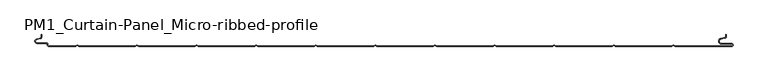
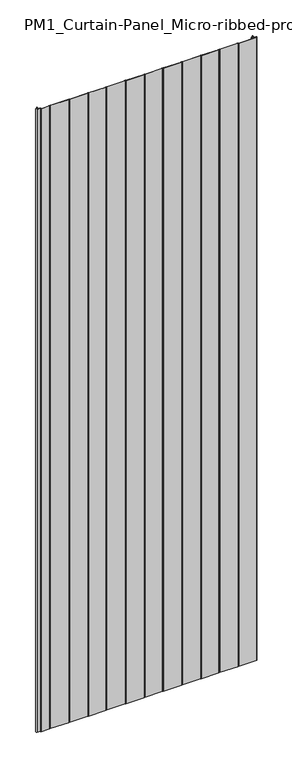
"""IFC4 building model written with IfcOpenShell, lengths in millimetres: plate geometry, PM1_Curtain-Panel_Micro-ribbed-profile : ACH_PM1_Acoustic-Sectioning-Panel_50M."""

from ifc_helpers import new_model, si_unit, frame, origin, place, context, project, spatial, polyline, circle_curve, source, transform, mapped, element, save
from ifc_brep_helpers import plane_surface, cylinder_surface, revolved_surface, advanced_brep


def pm1_curtain_panel_micro_ribbed_profile_3a178546(model_context):
    return source(origin(), model_context, "Body", "AdvancedBrep", [
        advanced_brep(
        [(-575.0, -34.121443, 3500.0), (-576.5500978, -36.0701831, 3500.0), (-582.7098239, -37.492268, 3500.0), (-581.9, -44.6, 3500.0), (-566.4, -44.6, 3500.0), (-564.4, -46.6, 3500.0), (-564.4, -48.0, 3500.0), (-562.4, -50.0, 3500.0), (-517.0999995, -50.0, 3500.0), (-514.4, -48.4411545, 3500.0), (-511.7000005, -50.0, 3500.0), (-417.0999995, -50.0, 3500.0), (-414.4, -48.4411545, 3500.0), (-411.7000005, -50.0, 3500.0), (-317.0999995, -50.0, 3500.0), (-314.4, -48.4411545, 3500.0), (-311.7000005, -50.0, 3500.0), (-217.0999995, -50.0, 3500.0), (-214.4, -48.4411545, 3500.0), (-211.7000005, -50.0, 3500.0), (-117.0999995, -50.0, 3500.0), (-114.4, -48.4411545, 3500.0), (-111.7000005, -50.0, 3500.0), (-17.0999995, -50.0, 3500.0), (-14.4, -48.4411545, 3500.0), (-11.7000005, -50.0, 3500.0), (82.9000005, -50.0, 3500.0), (85.6, -48.4411545, 3500.0), (88.2999995, -50.0, 3500.0), (182.9000005, -50.0, 3500.0), (185.6, -48.4411545, 3500.0), (188.2999995, -50.0, 3500.0), (282.9000005, -50.0, 3500.0), (285.6, -48.4411545, 3500.0), (288.2999995, -50.0, 3500.0), (382.9000005, -50.0, 3500.0), (385.6, -48.4411545, 3500.0), (388.2999995, -50.0, 3500.0), (482.9000005, -50.0, 3500.0), (485.6, -48.4411545, 3500.0), (488.2999995, -50.0, 3500.0), (583.1, -50.0, 3500.0), (585.6, -47.5, 3500.0), (583.1, -45.0, 3500.0), (566.1, -45.0, 3500.0), (565.405407, -37.060769, 3500.0), (571.8514855, -35.9241509, 3500.0), (574.0, -33.3636508, 3500.0), (574.0, -30.0, 3500.0), (573.2, -30.0, 3500.0), (573.2, -33.3636508, 3500.0), (571.7125669, -35.1363047, 3500.0), (565.2664884, -36.2729228, 3500.0), (566.1, -45.8, 3500.0), (583.1, -45.8, 3500.0), (583.1, -49.2, 3500.0), (488.5143588, -49.2, 3500.0), (485.6, -47.517394, 3500.0), (482.6856412, -49.2, 3500.0), (388.5143588, -49.2, 3500.0), (385.6, -47.517394, 3500.0), (382.6856412, -49.2, 3500.0), (288.5143588, -49.2, 3500.0), (285.6, -47.517394, 3500.0), (282.6856412, -49.2, 3500.0), (188.5143588, -49.2, 3500.0), (185.6, -47.517394, 3500.0), (182.6856412, -49.2, 3500.0), (88.5143588, -49.2, 3500.0), (85.6, -47.517394, 3500.0), (82.6856412, -49.2, 3500.0), (-11.4856412, -49.2, 3500.0), (-14.4, -47.517394, 3500.0), (-17.3143588, -49.2, 3500.0), (-111.4856412, -49.2, 3500.0), (-114.4, -47.517394, 3500.0), (-117.3143588, -49.2, 3500.0), (-211.4856412, -49.2, 3500.0), (-214.4, -47.517394, 3500.0), (-217.3143588, -49.2, 3500.0), (-311.4856412, -49.2, 3500.0), (-314.4, -47.517394, 3500.0), (-317.3143588, -49.2, 3500.0), (-411.4856412, -49.2, 3500.0), (-414.4, -47.517394, 3500.0), (-417.3143588, -49.2, 3500.0), (-511.4856412, -49.2, 3500.0), (-514.4, -47.517394, 3500.0), (-517.3143588, -49.2, 3500.0), (-562.4, -49.2, 3500.0), (-563.6, -48.0, 3500.0), (-563.6, -46.6, 3500.0), (-566.4, -43.8, 3500.0), (-581.9, -43.8, 3500.0), (-582.529863, -38.2717638, 3500.0), (-576.370137, -36.849679, 3500.0), (-574.2, -34.121443, 3500.0), (-574.2, -30.0, 3500.0), (-575.0, -30.0, 3500.0), (-575.0, -34.121443, 0.0), (-575.0, -30.0, 0.0), (-574.2, -30.0, 0.0), (-574.2, -34.121443, 0.0), (-576.370137, -36.8496792, 0.0), (-582.529863, -38.271764, 0.0), (-581.9, -43.8, 0.0), (-566.4, -43.8, 0.0), (-563.6, -46.6, 0.0), (-563.6, -48.0, 0.0), (-562.4, -49.2, 0.0), (-517.3143588, -49.2, 0.0), (-514.4, -47.517394, 0.0), (-511.4856412, -49.2, 0.0), (-417.3143588, -49.2, 0.0), (-414.4, -47.517394, 0.0), (-411.4856412, -49.2, 0.0), (-317.3143588, -49.2, 0.0), (-314.4, -47.517394, 0.0), (-311.4856412, -49.2, 0.0), (-217.3143588, -49.2, 0.0), (-214.4, -47.517394, 0.0), (-211.4856412, -49.2, 0.0), (-117.3143588, -49.2, 0.0), (-114.4, -47.517394, 0.0), (-111.4856412, -49.2, 0.0), (-17.3143588, -49.2, 0.0), (-14.4, -47.517394, 0.0), (-11.4856412, -49.2, 0.0), (82.6856412, -49.2, 0.0), (85.6, -47.517394, 0.0), (88.5143588, -49.2, 0.0), (182.6856412, -49.2, 0.0), (185.6, -47.517394, 0.0), (188.5143588, -49.2, 0.0), (282.6856412, -49.2, 0.0), (285.6, -47.517394, 0.0), (288.5143588, -49.2, 0.0), (382.6856412, -49.2, 0.0), (385.6, -47.517394, 0.0), (388.5143588, -49.2, 0.0), (482.6856412, -49.2, 0.0), (485.6, -47.517394, 0.0), (488.5143588, -49.2, 0.0), (583.1, -49.2, 0.0), (583.1, -45.8, 0.0), (566.1, -45.8, 0.0), (565.2664884, -36.2729229, 0.0), (571.7125669, -35.1363047, 0.0), (573.2, -33.3636508, 0.0), (573.2, -30.0, 0.0), (574.0, -30.0, 0.0), (574.0, -33.3636508, 0.0), (571.8514855, -35.9241509, 0.0), (565.405407, -37.060769, 0.0), (566.1, -45.0, 0.0), (583.1, -45.0, 0.0), (585.6, -47.5, 0.0), (583.1, -50.0, 0.0), (488.2999995, -50.0, 0.0), (485.6, -48.4411545, 0.0), (482.9000005, -50.0, 0.0), (388.2999995, -50.0, 0.0), (385.6, -48.4411545, 0.0), (382.9000005, -50.0, 0.0), (288.2999995, -50.0, 0.0), (285.6, -48.4411545, 0.0), (282.9000005, -50.0, 0.0), (188.2999995, -50.0, 0.0), (185.6, -48.4411545, 0.0), (182.9000005, -50.0, 0.0), (88.2999995, -50.0, 0.0), (85.6, -48.4411545, 0.0), (82.9000005, -50.0, 0.0), (-11.7000005, -50.0, 0.0), (-14.4, -48.4411545, 0.0), (-17.0999995, -50.0, 0.0), (-111.7000005, -50.0, 0.0), (-114.4, -48.4411545, 0.0), (-117.0999995, -50.0, 0.0), (-211.7000005, -50.0, 0.0), (-214.4, -48.4411545, 0.0), (-217.0999995, -50.0, 0.0), (-311.7000005, -50.0, 0.0), (-314.4, -48.4411545, 0.0), (-317.0999995, -50.0, 0.0), (-411.7000005, -50.0, 0.0), (-414.4, -48.4411545, 0.0), (-417.0999995, -50.0, 0.0), (-511.7000005, -50.0, 0.0), (-514.4, -48.4411545, 0.0), (-517.0999995, -50.0, 0.0), (-562.4, -50.0, 0.0), (-564.4, -48.0, 0.0), (-564.4, -46.6, 0.0), (-566.4, -44.6, 0.0), (-581.9, -44.6, 0.0), (-582.7098239, -37.4922678, 0.0), (-576.5500979, -36.070183, 0.0)],
        [
            (0, 1, circle_curve(frame((-577.0, -34.121443, 3500.0), z_axis=(0.0, 0.0, -1.0), x_axis=(1.0, 0.0, 0.0)), 2.0)),
            (1, 2),
            (2, 3, circle_curve(frame((-581.9, -41.0, 3500.0), z_axis=(0.0, 0.0, 1.0), x_axis=(1.0, 0.0, 0.0)), 3.6)),
            (3, 4),
            (4, 5, circle_curve(frame((-566.4, -46.6, 3500.0), z_axis=(0.0, 0.0, -1.0), x_axis=(1.0, 0.0, 0.0)), 2.0)),
            (5, 6),
            (6, 7, circle_curve(frame((-562.4, -48.0, 3500.0), z_axis=(0.0, 0.0, 1.0), x_axis=(1.0, 0.0, 0.0)), 2.0)),
            (7, 8),
            (8, 9),
            (9, 10),
            (10, 11),
            (11, 12),
            (12, 13),
            (13, 14),
            (14, 15),
            (15, 16),
            (16, 17),
            (17, 18),
            (18, 19),
            (19, 20),
            (20, 21),
            (21, 22),
            (22, 23),
            (23, 24),
            (24, 25),
            (25, 26),
            (26, 27),
            (27, 28),
            (28, 29),
            (29, 30),
            (30, 31),
            (31, 32),
            (32, 33),
            (33, 34),
            (34, 35),
            (35, 36),
            (36, 37),
            (37, 38),
            (38, 39),
            (39, 40),
            (40, 41),
            (41, 42, circle_curve(frame((583.1, -47.5, 3500.0), z_axis=(0.0, 0.0, 1.0), x_axis=(1.0, 0.0, 0.0)), 2.5)),
            (42, 43, circle_curve(frame((583.1, -47.5, 3500.0), z_axis=(0.0, 0.0, 1.0), x_axis=(1.0, 0.0, 0.0)), 2.5)),
            (43, 44),
            (44, 45, circle_curve(frame((566.1, -41.0, 3500.0), z_axis=(0.0, 0.0, -1.0), x_axis=(1.0, 0.0, 0.0)), 4.0)),
            (45, 46),
            (46, 47, circle_curve(frame((571.4, -33.3636508, 3500.0), z_axis=(0.0, 0.0, 1.0), x_axis=(1.0, 0.0, 0.0)), 2.6)),
            (47, 48),
            (48, 49),
            (49, 50),
            (50, 51, circle_curve(frame((571.4, -33.3636508, 3500.0), z_axis=(0.0, 0.0, -1.0), x_axis=(1.0, 0.0, 0.0)), 1.8)),
            (51, 52),
            (52, 53, circle_curve(frame((566.1, -41.0, 3500.0), z_axis=(0.0, 0.0, 1.0), x_axis=(1.0, 0.0, 0.0)), 4.8)),
            (53, 54),
            (54, 55, circle_curve(frame((583.1, -47.5, 3500.0), z_axis=(0.0, 0.0, -1.0), x_axis=(1.0, 0.0, 0.0)), 1.7)),
            (55, 56),
            (56, 57),
            (57, 58),
            (58, 59),
            (59, 60),
            (60, 61),
            (61, 62),
            (62, 63),
            (63, 64),
            (64, 65),
            (65, 66),
            (66, 67),
            (67, 68),
            (68, 69),
            (69, 70),
            (70, 71),
            (71, 72),
            (72, 73),
            (73, 74),
            (74, 75),
            (75, 76),
            (76, 77),
            (77, 78),
            (78, 79),
            (79, 80),
            (80, 81),
            (81, 82),
            (82, 83),
            (83, 84),
            (84, 85),
            (85, 86),
            (86, 87),
            (87, 88),
            (88, 89),
            (89, 90, circle_curve(frame((-562.4, -48.0, 3500.0), z_axis=(0.0, 0.0, -1.0), x_axis=(1.0, 0.0, 0.0)), 1.2)),
            (90, 91),
            (91, 92, circle_curve(frame((-566.4, -46.6, 3500.0), z_axis=(0.0, 0.0, 1.0), x_axis=(1.0, 0.0, 0.0)), 2.8)),
            (92, 93),
            (93, 94, circle_curve(frame((-581.9, -41.0, 3500.0), z_axis=(0.0, 0.0, -1.0), x_axis=(1.0, 0.0, 0.0)), 2.8)),
            (94, 95),
            (95, 96, circle_curve(frame((-577.0, -34.121443, 3500.0), z_axis=(0.0, 0.0, 1.0), x_axis=(1.0, 0.0, 0.0)), 2.8)),
            (96, 97),
            (97, 98),
            (98, 0),
            (99, 100),
            (100, 101),
            (101, 102),
            (102, 103, circle_curve(frame((-577.0, -34.121443, 0.0), z_axis=(0.0, 0.0, -1.0), x_axis=(1.0, 0.0, 0.0)), 2.8)),
            (103, 104),
            (104, 105, circle_curve(frame((-581.9, -41.0, 0.0), z_axis=(0.0, 0.0, 1.0), x_axis=(1.0, 0.0, 0.0)), 2.8)),
            (105, 106),
            (106, 107, circle_curve(frame((-566.4, -46.6, 0.0), z_axis=(0.0, 0.0, -1.0), x_axis=(1.0, 0.0, 0.0)), 2.8)),
            (107, 108),
            (108, 109, circle_curve(frame((-562.4, -48.0, 0.0), z_axis=(0.0, 0.0, 1.0), x_axis=(1.0, 0.0, 0.0)), 1.2)),
            (109, 110),
            (110, 111),
            (111, 112),
            (112, 113),
            (113, 114),
            (114, 115),
            (115, 116),
            (116, 117),
            (117, 118),
            (118, 119),
            (119, 120),
            (120, 121),
            (121, 122),
            (122, 123),
            (123, 124),
            (124, 125),
            (125, 126),
            (126, 127),
            (127, 128),
            (128, 129),
            (129, 130),
            (130, 131),
            (131, 132),
            (132, 133),
            (133, 134),
            (134, 135),
            (135, 136),
            (136, 137),
            (137, 138),
            (138, 139),
            (139, 140),
            (140, 141),
            (141, 142),
            (142, 143),
            (143, 144, circle_curve(frame((583.1, -47.5, 0.0), z_axis=(0.0, 0.0, 1.0), x_axis=(1.0, 0.0, 0.0)), 1.7)),
            (144, 145),
            (145, 146, circle_curve(frame((566.1, -41.0, 0.0), z_axis=(0.0, 0.0, -1.0), x_axis=(1.0, 0.0, 0.0)), 4.8)),
            (146, 147),
            (147, 148, circle_curve(frame((571.4, -33.3636508, 0.0), z_axis=(0.0, 0.0, 1.0), x_axis=(1.0, 0.0, 0.0)), 1.8)),
            (148, 149),
            (149, 150),
            (150, 151),
            (151, 152, circle_curve(frame((571.4, -33.3636508, 0.0), z_axis=(0.0, 0.0, -1.0), x_axis=(1.0, 0.0, 0.0)), 2.6)),
            (152, 153),
            (153, 154, circle_curve(frame((566.1, -41.0, 0.0), z_axis=(0.0, 0.0, 1.0), x_axis=(1.0, 0.0, 0.0)), 4.0)),
            (154, 155),
            (155, 156, circle_curve(frame((583.1, -47.5, 0.0), z_axis=(0.0, 0.0, -1.0), x_axis=(1.0, 0.0, 0.0)), 2.5)),
            (156, 157, circle_curve(frame((583.1, -47.5, 0.0), z_axis=(0.0, 0.0, -1.0), x_axis=(1.0, 0.0, 0.0)), 2.5)),
            (157, 158),
            (158, 159),
            (159, 160),
            (160, 161),
            (161, 162),
            (162, 163),
            (163, 164),
            (164, 165),
            (165, 166),
            (166, 167),
            (167, 168),
            (168, 169),
            (169, 170),
            (170, 171),
            (171, 172),
            (172, 173),
            (173, 174),
            (174, 175),
            (175, 176),
            (176, 177),
            (177, 178),
            (178, 179),
            (179, 180),
            (180, 181),
            (181, 182),
            (182, 183),
            (183, 184),
            (184, 185),
            (185, 186),
            (186, 187),
            (187, 188),
            (188, 189),
            (189, 190),
            (190, 191),
            (191, 192, circle_curve(frame((-562.4, -48.0, 0.0), z_axis=(0.0, 0.0, -1.0), x_axis=(1.0, 0.0, 0.0)), 2.0)),
            (192, 193),
            (193, 194, circle_curve(frame((-566.4, -46.6, 0.0), z_axis=(0.0, 0.0, 1.0), x_axis=(1.0, 0.0, 0.0)), 2.0)),
            (194, 195),
            (195, 196, circle_curve(frame((-581.9, -41.0, 0.0), z_axis=(0.0, 0.0, -1.0), x_axis=(1.0, 0.0, 0.0)), 3.6)),
            (196, 197),
            (197, 99, circle_curve(frame((-577.0, -34.121443, 0.0), z_axis=(0.0, 0.0, 1.0), x_axis=(1.0, 0.0, 0.0)), 2.0)),
            (0, 99),
            (197, 1),
            (196, 2),
            (195, 3),
            (194, 4),
            (193, 5),
            (192, 6),
            (191, 7),
            (190, 8),
            (189, 9),
            (188, 10),
            (187, 11),
            (186, 12),
            (185, 13),
            (184, 14),
            (183, 15),
            (182, 16),
            (181, 17),
            (180, 18),
            (179, 19),
            (178, 20),
            (177, 21),
            (176, 22),
            (175, 23),
            (174, 24),
            (173, 25),
            (172, 26),
            (171, 27),
            (170, 28),
            (169, 29),
            (168, 30),
            (167, 31),
            (166, 32),
            (165, 33),
            (164, 34),
            (163, 35),
            (162, 36),
            (161, 37),
            (160, 38),
            (159, 39),
            (158, 40),
            (157, 41),
            (155, 43),
            (154, 44),
            (153, 45),
            (152, 46),
            (151, 47),
            (150, 48),
            (149, 49),
            (148, 50),
            (147, 51),
            (146, 52),
            (145, 53),
            (144, 54),
            (143, 55),
            (142, 56),
            (141, 57),
            (140, 58),
            (139, 59),
            (138, 60),
            (137, 61),
            (136, 62),
            (135, 63),
            (134, 64),
            (133, 65),
            (132, 66),
            (131, 67),
            (130, 68),
            (129, 69),
            (128, 70),
            (127, 71),
            (126, 72),
            (125, 73),
            (124, 74),
            (123, 75),
            (122, 76),
            (121, 77),
            (120, 78),
            (119, 79),
            (118, 80),
            (117, 81),
            (116, 82),
            (115, 83),
            (114, 84),
            (113, 85),
            (112, 86),
            (111, 87),
            (110, 88),
            (109, 89),
            (108, 90),
            (107, 91),
            (106, 92),
            (105, 93),
            (104, 94),
            (103, 95),
            (102, 96),
            (101, 97),
            (100, 98),
        ],
        [
            plane_surface(frame((-575.0, -50.0, 3500.0), z_axis=(0.0, 0.0, 1.0), x_axis=(0.0, 1.0, 0.0))),
            plane_surface(frame((-575.0, -50.0, 0.0), z_axis=(0.0, 0.0, -1.0), x_axis=(0.0, 1.0, 0.0))),
            revolved_surface(polyline([(-575.0, -34.121443, 0.0), (-575.0, -34.121443, 3500.0)]), (-577.0, -34.121443, 3500.0), (0.0, 0.0, -1.0)),
            plane_surface(frame((-576.5500979, -36.070183, 3500.0), z_axis=(-0.22495108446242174, 0.9743700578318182, 0.0), x_axis=(0.0, 0.0, -1.0))),
            cylinder_surface(frame((-581.9, -41.0, 3500.0), z_axis=(0.0, 0.0, 1.0), x_axis=(1.0, 0.0, 0.0)), 3.6),
            plane_surface(frame((-581.9, -44.6, 3500.0), z_axis=(0.0, -1.0, 0.0), x_axis=(0.0, 0.0, -1.0))),
            revolved_surface(polyline([(-564.4, -46.6, 0.0), (-564.4, -46.6, 3500.0)]), (-566.4, -46.6, 3500.0), (0.0, 0.0, -1.0)),
            plane_surface(frame((-564.4, -46.6, 3500.0), z_axis=(-1.0, 0.0, 0.0), x_axis=(0.0, 0.0, -1.0))),
            cylinder_surface(frame((-562.4, -48.0, 3500.0), z_axis=(0.0, 0.0, 1.0), x_axis=(1.0, 0.0, 0.0)), 2.0),
            plane_surface(frame((-562.4, -50.0, 3500.0), z_axis=(0.0, -1.0, 0.0), x_axis=(0.0, 0.0, -1.0))),
            plane_surface(frame((-517.0999995, -50.0, 3500.0), z_axis=(0.5000000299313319, -0.8660253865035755, 0.0), x_axis=(0.0, 0.0, -1.0))),
            plane_surface(frame((-514.4, -48.4411545, 3500.0), z_axis=(-0.5000000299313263, -0.8660253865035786, 0.0), x_axis=(0.0, 0.0, -1.0))),
            plane_surface(frame((-511.7000005, -50.0, 3500.0), z_axis=(0.0, -1.0, 0.0), x_axis=(0.0, 0.0, -1.0))),
            plane_surface(frame((-417.0999995, -50.0, 3500.0), z_axis=(0.5000000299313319, -0.8660253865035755, 0.0), x_axis=(0.0, 0.0, -1.0))),
            plane_surface(frame((-414.4, -48.4411545, 3500.0), z_axis=(-0.5000000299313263, -0.8660253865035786, 0.0), x_axis=(0.0, 0.0, -1.0))),
            plane_surface(frame((-411.7000005, -50.0, 3500.0), z_axis=(0.0, -1.0, 0.0), x_axis=(0.0, 0.0, -1.0))),
            plane_surface(frame((-317.0999995, -50.0, 3500.0), z_axis=(0.5000000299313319, -0.8660253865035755, 0.0), x_axis=(0.0, 0.0, -1.0))),
            plane_surface(frame((-314.4, -48.4411545, 3500.0), z_axis=(-0.5000000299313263, -0.8660253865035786, 0.0), x_axis=(0.0, 0.0, -1.0))),
            plane_surface(frame((-311.7000005, -50.0, 3500.0), z_axis=(0.0, -1.0, 0.0), x_axis=(0.0, 0.0, -1.0))),
            plane_surface(frame((-217.0999995, -50.0, 3500.0), z_axis=(0.5000000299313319, -0.8660253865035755, 0.0), x_axis=(0.0, 0.0, -1.0))),
            plane_surface(frame((-214.4, -48.4411545, 3500.0), z_axis=(-0.5000000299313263, -0.8660253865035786, 0.0), x_axis=(0.0, 0.0, -1.0))),
            plane_surface(frame((-211.7000005, -50.0, 3500.0), z_axis=(0.0, -1.0, 0.0), x_axis=(0.0, 0.0, -1.0))),
            plane_surface(frame((-117.0999995, -50.0, 3500.0), z_axis=(0.5000000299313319, -0.8660253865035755, 0.0), x_axis=(0.0, 0.0, -1.0))),
            plane_surface(frame((-114.4, -48.4411545, 3500.0), z_axis=(-0.5000000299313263, -0.8660253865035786, 0.0), x_axis=(0.0, 0.0, -1.0))),
            plane_surface(frame((-111.7000005, -50.0, 3500.0), z_axis=(0.0, -1.0, 0.0), x_axis=(0.0, 0.0, -1.0))),
            plane_surface(frame((-17.0999995, -50.0, 3500.0), z_axis=(0.5000000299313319, -0.8660253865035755, 0.0), x_axis=(0.0, 0.0, -1.0))),
            plane_surface(frame((-14.4, -48.4411545, 3500.0), z_axis=(-0.5000000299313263, -0.8660253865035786, 0.0), x_axis=(0.0, 0.0, -1.0))),
            plane_surface(frame((-11.7000005, -50.0, 3500.0), z_axis=(0.0, -1.0, 0.0), x_axis=(0.0, 0.0, -1.0))),
            plane_surface(frame((82.9000005, -50.0, 3500.0), z_axis=(0.5000000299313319, -0.8660253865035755, 0.0), x_axis=(0.0, 0.0, -1.0))),
            plane_surface(frame((85.6, -48.4411545, 3500.0), z_axis=(-0.5000000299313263, -0.8660253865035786, 0.0), x_axis=(0.0, 0.0, -1.0))),
            plane_surface(frame((88.2999995, -50.0, 3500.0), z_axis=(0.0, -1.0, 0.0), x_axis=(0.0, 0.0, -1.0))),
            plane_surface(frame((182.9000005, -50.0, 3500.0), z_axis=(0.5000000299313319, -0.8660253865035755, 0.0), x_axis=(0.0, 0.0, -1.0))),
            plane_surface(frame((185.6, -48.4411545, 3500.0), z_axis=(-0.5000000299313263, -0.8660253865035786, 0.0), x_axis=(0.0, 0.0, -1.0))),
            plane_surface(frame((188.2999995, -50.0, 3500.0), z_axis=(0.0, -1.0, 0.0), x_axis=(0.0, 0.0, -1.0))),
            plane_surface(frame((282.9000005, -50.0, 3500.0), z_axis=(0.5000000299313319, -0.8660253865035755, 0.0), x_axis=(0.0, 0.0, -1.0))),
            plane_surface(frame((285.6, -48.4411545, 3500.0), z_axis=(-0.5000000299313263, -0.8660253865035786, 0.0), x_axis=(0.0, 0.0, -1.0))),
            plane_surface(frame((288.2999995, -50.0, 3500.0), z_axis=(0.0, -1.0, 0.0), x_axis=(0.0, 0.0, -1.0))),
            plane_surface(frame((382.9000005, -50.0, 3500.0), z_axis=(0.5000000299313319, -0.8660253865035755, 0.0), x_axis=(0.0, 0.0, -1.0))),
            plane_surface(frame((385.6, -48.4411545, 3500.0), z_axis=(-0.5000000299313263, -0.8660253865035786, 0.0), x_axis=(0.0, 0.0, -1.0))),
            plane_surface(frame((388.2999995, -50.0, 3500.0), z_axis=(0.0, -1.0, 0.0), x_axis=(0.0, 0.0, -1.0))),
            plane_surface(frame((482.9000005, -50.0, 3500.0), z_axis=(0.5000000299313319, -0.8660253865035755, 0.0), x_axis=(0.0, 0.0, -1.0))),
            plane_surface(frame((485.6, -48.4411545, 3500.0), z_axis=(-0.5000000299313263, -0.8660253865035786, 0.0), x_axis=(0.0, 0.0, -1.0))),
            plane_surface(frame((535.6, -50.0, 3500.0), z_axis=(0.0, -1.0, 0.0), x_axis=(0.0, 0.0, -1.0))),
            cylinder_surface(frame((583.1, -47.5, 3500.0), z_axis=(0.0, 0.0, 1.0), x_axis=(1.0, 0.0, 0.0)), 2.5),
            plane_surface(frame((583.1, -45.0, 3500.0), z_axis=(0.0, 1.0, 0.0), x_axis=(0.0, 0.0, -1.0))),
            revolved_surface(polyline([(570.1, -41.0, 0.0), (570.1, -41.0, 3500.0)]), (566.1, -41.0, 3500.0), (0.0, 0.0, -1.0)),
            plane_surface(frame((565.405407, -37.060769, 3500.0), z_axis=(0.17364825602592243, -0.9848077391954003, 0.0), x_axis=(0.0, 0.0, -1.0))),
            cylinder_surface(frame((571.4, -33.3636508, 3500.0), z_axis=(0.0, 0.0, 1.0), x_axis=(1.0, 0.0, 0.0)), 2.6),
            plane_surface(frame((574.0, -33.3636508, 3500.0), z_axis=(1.0, 0.0, 0.0), x_axis=(0.0, 0.0, -1.0))),
            plane_surface(frame((574.0, -30.0, 3500.0), z_axis=(0.0, 1.0, 0.0), x_axis=(0.0, 0.0, -1.0))),
            plane_surface(frame((573.2, -30.0, 3500.0), z_axis=(-1.0, 0.0, 0.0), x_axis=(0.0, 0.0, -1.0))),
            revolved_surface(polyline([(573.1999999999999, -33.3636508, 0.0), (573.1999999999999, -33.3636508, 3500.0)]), (571.4, -33.3636508, 3500.0), (0.0, 0.0, -1.0)),
            plane_surface(frame((571.7125669, -35.1363047, 3500.0), z_axis=(-0.17364825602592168, 0.9848077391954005, 0.0), x_axis=(0.0, 0.0, -1.0))),
            cylinder_surface(frame((566.1, -41.0, 3500.0), z_axis=(0.0, 0.0, 1.0), x_axis=(1.0, 0.0, 0.0)), 4.8),
            plane_surface(frame((566.1, -45.8, 3500.0), z_axis=(0.0, -1.0, 0.0), x_axis=(0.0, 0.0, -1.0))),
            revolved_surface(polyline([(584.8000000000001, -47.5, 0.0), (584.8000000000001, -47.5, 3500.0)]), (583.1, -47.5, 3500.0), (0.0, 0.0, -1.0)),
            plane_surface(frame((535.6, -49.2, 3500.0), z_axis=(0.0, 1.0, 0.0), x_axis=(0.0, 0.0, -1.0))),
            plane_surface(frame((488.5143588, -49.2, 3500.0), z_axis=(0.5000000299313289, 0.8660253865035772, 0.0), x_axis=(0.0, 0.0, -1.0))),
            plane_surface(frame((485.6, -47.517394, 3500.0), z_axis=(-0.5000000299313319, 0.8660253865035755, 0.0), x_axis=(0.0, 0.0, -1.0))),
            plane_surface(frame((482.6856412, -49.2, 3500.0), z_axis=(0.0, 1.0, 0.0), x_axis=(0.0, 0.0, -1.0))),
            plane_surface(frame((388.5143588, -49.2, 3500.0), z_axis=(0.5000000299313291, 0.8660253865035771, 0.0), x_axis=(0.0, 0.0, -1.0))),
            plane_surface(frame((385.6, -47.517394, 3500.0), z_axis=(-0.500000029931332, 0.8660253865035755, 0.0), x_axis=(0.0, 0.0, -1.0))),
            plane_surface(frame((382.6856412, -49.2, 3500.0), z_axis=(0.0, 1.0, 0.0), x_axis=(0.0, 0.0, -1.0))),
            plane_surface(frame((288.5143588, -49.2, 3500.0), z_axis=(0.5000000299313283, 0.8660253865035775, 0.0), x_axis=(0.0, 0.0, -1.0))),
            plane_surface(frame((285.6, -47.517394, 3500.0), z_axis=(-0.5000000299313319, 0.8660253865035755, 0.0), x_axis=(0.0, 0.0, -1.0))),
            plane_surface(frame((282.6856412, -49.2, 3500.0), z_axis=(0.0, 1.0, 0.0), x_axis=(0.0, 0.0, -1.0))),
            plane_surface(frame((188.5143588, -49.2, 3500.0), z_axis=(0.5000000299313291, 0.8660253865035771, 0.0), x_axis=(0.0, 0.0, -1.0))),
            plane_surface(frame((185.6, -47.517394, 3500.0), z_axis=(-0.5000000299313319, 0.8660253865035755, 0.0), x_axis=(0.0, 0.0, -1.0))),
            plane_surface(frame((182.6856412, -49.2, 3500.0), z_axis=(0.0, 1.0, 0.0), x_axis=(0.0, 0.0, -1.0))),
            plane_surface(frame((88.5143588, -49.2, 3500.0), z_axis=(0.5000000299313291, 0.8660253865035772, 0.0), x_axis=(0.0, 0.0, -1.0))),
            plane_surface(frame((85.6, -47.517394, 3500.0), z_axis=(-0.5000000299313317, 0.8660253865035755, 0.0), x_axis=(0.0, 0.0, -1.0))),
            plane_surface(frame((82.6856412, -49.2, 3500.0), z_axis=(0.0, 1.0, 0.0), x_axis=(0.0, 0.0, -1.0))),
            plane_surface(frame((-11.4856412, -49.2, 3500.0), z_axis=(0.500000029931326, 0.8660253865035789, 0.0), x_axis=(0.0, 0.0, -1.0))),
            plane_surface(frame((-14.4, -47.517394, 3500.0), z_axis=(-0.500000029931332, 0.8660253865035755, 0.0), x_axis=(0.0, 0.0, -1.0))),
            plane_surface(frame((-17.3143588, -49.2, 3500.0), z_axis=(0.0, 1.0, 0.0), x_axis=(0.0, 0.0, -1.0))),
            plane_surface(frame((-111.4856412, -49.2, 3500.0), z_axis=(0.5000000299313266, 0.8660253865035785, 0.0), x_axis=(0.0, 0.0, -1.0))),
            plane_surface(frame((-114.4, -47.517394, 3500.0), z_axis=(-0.5000000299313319, 0.8660253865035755, 0.0), x_axis=(0.0, 0.0, -1.0))),
            plane_surface(frame((-117.3143588, -49.2, 3500.0), z_axis=(0.0, 1.0, 0.0), x_axis=(0.0, 0.0, -1.0))),
            plane_surface(frame((-211.4856412, -49.2, 3500.0), z_axis=(0.5000000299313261, 0.8660253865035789, 0.0), x_axis=(0.0, 0.0, -1.0))),
            plane_surface(frame((-214.4, -47.517394, 3500.0), z_axis=(-0.500000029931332, 0.8660253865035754, 0.0), x_axis=(0.0, 0.0, -1.0))),
            plane_surface(frame((-217.3143588, -49.2, 3500.0), z_axis=(0.0, 1.0, 0.0), x_axis=(0.0, 0.0, -1.0))),
            plane_surface(frame((-311.4856412, -49.2, 3500.0), z_axis=(0.5000000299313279, 0.8660253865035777, 0.0), x_axis=(0.0, 0.0, -1.0))),
            plane_surface(frame((-314.4, -47.517394, 3500.0), z_axis=(-0.5000000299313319, 0.8660253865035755, 0.0), x_axis=(0.0, 0.0, -1.0))),
            plane_surface(frame((-317.3143588, -49.2, 3500.0), z_axis=(0.0, 1.0, 0.0), x_axis=(0.0, 0.0, -1.0))),
            plane_surface(frame((-411.4856412, -49.2, 3500.0), z_axis=(0.5000000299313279, 0.8660253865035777, 0.0), x_axis=(0.0, 0.0, -1.0))),
            plane_surface(frame((-414.4, -47.517394, 3500.0), z_axis=(-0.5000000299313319, 0.8660253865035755, 0.0), x_axis=(0.0, 0.0, -1.0))),
            plane_surface(frame((-417.3143588, -49.2, 3500.0), z_axis=(0.0, 1.0, 0.0), x_axis=(0.0, 0.0, -1.0))),
            plane_surface(frame((-511.4856412, -49.2, 3500.0), z_axis=(0.5000000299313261, 0.8660253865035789, 0.0), x_axis=(0.0, 0.0, -1.0))),
            plane_surface(frame((-514.4, -47.517394, 3500.0), z_axis=(-0.5000000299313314, 0.8660253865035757, 0.0), x_axis=(0.0, 0.0, -1.0))),
            plane_surface(frame((-517.3143588, -49.2, 3500.0), z_axis=(0.0, 1.0, 0.0), x_axis=(0.0, 0.0, -1.0))),
            revolved_surface(polyline([(-561.1999999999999, -48.0, 0.0), (-561.1999999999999, -48.0, 3500.0)]), (-562.4, -48.0, 3500.0), (0.0, 0.0, -1.0)),
            plane_surface(frame((-563.6, -48.0, 3500.0), z_axis=(1.0, 0.0, 0.0), x_axis=(0.0, 0.0, -1.0))),
            cylinder_surface(frame((-566.4, -46.6, 3500.0), z_axis=(0.0, 0.0, 1.0), x_axis=(1.0, 0.0, 0.0)), 2.8),
            plane_surface(frame((-566.4, -43.8, 3500.0), z_axis=(0.0, 1.0, 0.0), x_axis=(0.0, 0.0, -1.0))),
            revolved_surface(polyline([(-579.1, -41.0, 0.0), (-579.1, -41.0, 3500.0)]), (-581.9, -41.0, 3500.0), (0.0, 0.0, -1.0)),
            plane_surface(frame((-582.529863, -38.271764, 3500.0), z_axis=(0.22495108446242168, -0.9743700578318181, 0.0), x_axis=(0.0, 0.0, -1.0))),
            cylinder_surface(frame((-577.0, -34.121443, 3500.0), z_axis=(0.0, 0.0, 1.0), x_axis=(1.0, 0.0, 0.0)), 2.8),
            plane_surface(frame((-574.2, -34.121443, 3500.0), z_axis=(1.0, 0.0, 0.0), x_axis=(0.0, 0.0, -1.0))),
            plane_surface(frame((-574.2, -30.0, 3500.0), z_axis=(0.0, 1.0, 0.0), x_axis=(0.0, 0.0, -1.0))),
            plane_surface(frame((-575.0, -30.0, 3500.0), z_axis=(-1.0, 0.0, 0.0), x_axis=(0.0, 0.0, -1.0))),
        ],
        [
            (0, [[1, 2, 3, 4, 5, 6, 7, 8, 9, 10, 11, 12, 13, 14, 15, 16, 17, 18, 19, 20, 21, 22, 23, 24, 25, 26, 27, 28, 29, 30, 31, 32, 33, 34, 35, 36, 37, 38, 39, 40, 41, 42, 43, 44, 45, 46, 47, 48, 49, 50, 51, 52, 53, 54, 55, 56, 57, 58, 59, 60, 61, 62, 63, 64, 65, 66, 67, 68, 69, 70, 71, 72, 73, 74, 75, 76, 77, 78, 79, 80, 81, 82, 83, 84, 85, 86, 87, 88, 89, 90, 91, 92, 93, 94, 95, 96, 97, 98, 99]]),
            (1, [[100, 101, 102, 103, 104, 105, 106, 107, 108, 109, 110, 111, 112, 113, 114, 115, 116, 117, 118, 119, 120, 121, 122, 123, 124, 125, 126, 127, 128, 129, 130, 131, 132, 133, 134, 135, 136, 137, 138, 139, 140, 141, 142, 143, 144, 145, 146, 147, 148, 149, 150, 151, 152, 153, 154, 155, 156, 157, 158, 159, 160, 161, 162, 163, 164, 165, 166, 167, 168, 169, 170, 171, 172, 173, 174, 175, 176, 177, 178, 179, 180, 181, 182, 183, 184, 185, 186, 187, 188, 189, 190, 191, 192, 193, 194, 195, 196, 197, 198]]),
            (2, [[-1, 199, -198, 200]]),
            (3, [[-2, -200, -197, 201]]),
            (4, [[-3, -201, -196, 202]]),
            (5, [[-4, -202, -195, 203]]),
            (6, [[-5, -203, -194, 204]]),
            (7, [[-6, -204, -193, 205]]),
            (8, [[-7, -205, -192, 206]]),
            (9, [[-8, -206, -191, 207]]),
            (10, [[-9, -207, -190, 208]]),
            (11, [[-10, -208, -189, 209]]),
            (12, [[-11, -209, -188, 210]]),
            (13, [[-12, -210, -187, 211]]),
            (14, [[-13, -211, -186, 212]]),
            (15, [[-14, -212, -185, 213]]),
            (16, [[-15, -213, -184, 214]]),
            (17, [[-16, -214, -183, 215]]),
            (18, [[-17, -215, -182, 216]]),
            (19, [[-18, -216, -181, 217]]),
            (20, [[-19, -217, -180, 218]]),
            (21, [[-20, -218, -179, 219]]),
            (22, [[-21, -219, -178, 220]]),
            (23, [[-22, -220, -177, 221]]),
            (24, [[-23, -221, -176, 222]]),
            (25, [[-24, -222, -175, 223]]),
            (26, [[-25, -223, -174, 224]]),
            (27, [[-26, -224, -173, 225]]),
            (28, [[-27, -225, -172, 226]]),
            (29, [[-28, -226, -171, 227]]),
            (30, [[-29, -227, -170, 228]]),
            (31, [[-30, -228, -169, 229]]),
            (32, [[-31, -229, -168, 230]]),
            (33, [[-32, -230, -167, 231]]),
            (34, [[-33, -231, -166, 232]]),
            (35, [[-34, -232, -165, 233]]),
            (36, [[-35, -233, -164, 234]]),
            (37, [[-36, -234, -163, 235]]),
            (38, [[-37, -235, -162, 236]]),
            (39, [[-38, -236, -161, 237]]),
            (40, [[-39, -237, -160, 238]]),
            (41, [[-40, -238, -159, 239]]),
            (42, [[-41, -239, -158, 240]]),
            (43, [[-240, -157, -156, 241, -43, -42]]),
            (44, [[-44, -241, -155, 242]]),
            (45, [[-45, -242, -154, 243]]),
            (46, [[-46, -243, -153, 244]]),
            (47, [[-47, -244, -152, 245]]),
            (48, [[-48, -245, -151, 246]]),
            (49, [[-49, -246, -150, 247]]),
            (50, [[-50, -247, -149, 248]]),
            (51, [[-51, -248, -148, 249]]),
            (52, [[-52, -249, -147, 250]]),
            (53, [[-53, -250, -146, 251]]),
            (54, [[-54, -251, -145, 252]]),
            (55, [[-55, -252, -144, 253]]),
            (56, [[-56, -253, -143, 254]]),
            (57, [[-57, -254, -142, 255]]),
            (58, [[-58, -255, -141, 256]]),
            (59, [[-59, -256, -140, 257]]),
            (60, [[-60, -257, -139, 258]]),
            (61, [[-61, -258, -138, 259]]),
            (62, [[-62, -259, -137, 260]]),
            (63, [[-63, -260, -136, 261]]),
            (64, [[-64, -261, -135, 262]]),
            (65, [[-65, -262, -134, 263]]),
            (66, [[-66, -263, -133, 264]]),
            (67, [[-67, -264, -132, 265]]),
            (68, [[-68, -265, -131, 266]]),
            (69, [[-69, -266, -130, 267]]),
            (70, [[-70, -267, -129, 268]]),
            (71, [[-71, -268, -128, 269]]),
            (72, [[-72, -269, -127, 270]]),
            (73, [[-73, -270, -126, 271]]),
            (74, [[-74, -271, -125, 272]]),
            (75, [[-75, -272, -124, 273]]),
            (76, [[-76, -273, -123, 274]]),
            (77, [[-77, -274, -122, 275]]),
            (78, [[-78, -275, -121, 276]]),
            (79, [[-79, -276, -120, 277]]),
            (80, [[-80, -277, -119, 278]]),
            (81, [[-81, -278, -118, 279]]),
            (82, [[-82, -279, -117, 280]]),
            (83, [[-83, -280, -116, 281]]),
            (84, [[-84, -281, -115, 282]]),
            (85, [[-85, -282, -114, 283]]),
            (86, [[-86, -283, -113, 284]]),
            (87, [[-87, -284, -112, 285]]),
            (88, [[-88, -285, -111, 286]]),
            (89, [[-89, -286, -110, 287]]),
            (90, [[-90, -287, -109, 288]]),
            (91, [[-91, -288, -108, 289]]),
            (92, [[-92, -289, -107, 290]]),
            (93, [[-93, -290, -106, 291]]),
            (94, [[-94, -291, -105, 292]]),
            (95, [[-95, -292, -104, 293]]),
            (96, [[-96, -293, -103, 294]]),
            (97, [[-97, -294, -102, 295]]),
            (98, [[-98, -295, -101, 296]]),
            (99, [[-99, -296, -100, -199]]),
        ],
    ),
    ])


if __name__ == "__main__":
    model = new_model("IFC4")
    model_context = context("Model", 3, world=origin())
    ifc_project = project(units=[si_unit("LENGTHUNIT", "METRE", prefix="MILLI")], contexts=[model_context])
    site = spatial("IfcSite", under=ifc_project)
    building = spatial("IfcBuilding", under=site)
    placement = place(None, origin())
    pm1_curtain_panel_micro_ribbed_profile_shape = pm1_curtain_panel_micro_ribbed_profile_3a178546(model_context)
    element("IfcPlate", 1, ObjectType="PM1_Curtain-Panel_Micro-ribbed-profile : ACH_PM1_Acoustic-Sectioning-Panel_50M", at=placement, inside=building, context=model_context, shape_type="MappedRepresentation", body=[
        mapped(pm1_curtain_panel_micro_ribbed_profile_shape, transform((0.0, 0.0, 0.0), x_axis=(1.0, 0.0, 0.0), y_axis=(0.0, 1.0, 0.0), z_axis=(0.0, 0.0, 1.0))),
    ])
    save(model, "model.ifc")
